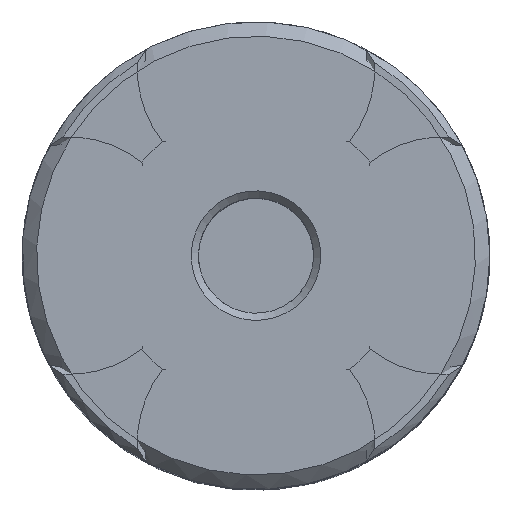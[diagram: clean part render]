
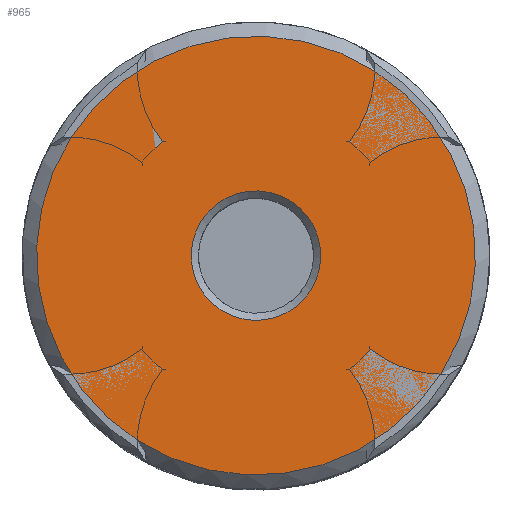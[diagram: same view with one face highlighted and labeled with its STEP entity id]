
A CAD part, top view. The second image highlights one B-rep face of the part: STEP entity #965.
In plain terms, the highlighted planar face has unit normal (0, 0, 1) as drawn and (0, 0, -1) by its records, which use the part's own axes.
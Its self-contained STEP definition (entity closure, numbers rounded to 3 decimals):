
#965 = ADVANCED_FACE( '', ( #1849, #1850 ), #1851, .T. );
#1849 = FACE_OUTER_BOUND( '', #2266, .T. );
#1850 = FACE_BOUND( '', #2267, .T. );
#1851 = PLANE( '', #2268 );
#2266 = EDGE_LOOP( '', ( #3077 ) );
#2267 = EDGE_LOOP( '', ( #3078 ) );
#2268 = AXIS2_PLACEMENT_3D( '', #3079, #3080, #3081 );
#3077 = ORIENTED_EDGE( '', *, *, #3888, .T. );
#3078 = ORIENTED_EDGE( '', *, *, #3937, .T. );
#3079 = CARTESIAN_POINT( '', ( 0., 0., 0. ) );
#3080 = DIRECTION( '', ( 0., 0., -1. ) );
#3081 = DIRECTION( '', ( 0., -1., 0. ) );
#3888 = EDGE_CURVE( '', #4420, #4420, #4421, .T. );
#3937 = EDGE_CURVE( '', #4499, #4499, #4500, .F. );
#4420 = VERTEX_POINT( '', #4698 );
#4421 = CIRCLE( '', #4699, 30.5 );
#4499 = VERTEX_POINT( '', #4944 );
#4500 = CIRCLE( '', #4945, 9. );
#4698 = CARTESIAN_POINT( '', ( -30.5, 0., 0. ) );
#4699 = AXIS2_PLACEMENT_3D( '', #5115, #5116, #5117 );
#4944 = CARTESIAN_POINT( '', ( -9., 0., 0. ) );
#4945 = AXIS2_PLACEMENT_3D( '', #5213, #5214, #5215 );
#5115 = CARTESIAN_POINT( '', ( 0., 0., 0. ) );
#5116 = DIRECTION( '', ( 0., 0., -1. ) );
#5117 = DIRECTION( '', ( -1., 0., 0. ) );
#5213 = CARTESIAN_POINT( '', ( 0., 0., 0. ) );
#5214 = DIRECTION( '', ( 0., 0., -1. ) );
#5215 = DIRECTION( '', ( -1., 0., 0. ) );
